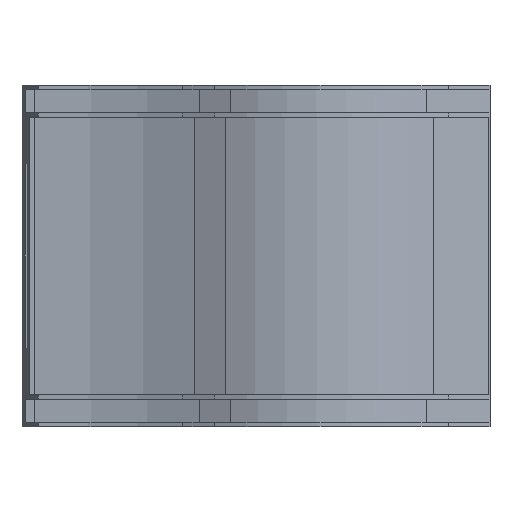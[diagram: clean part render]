
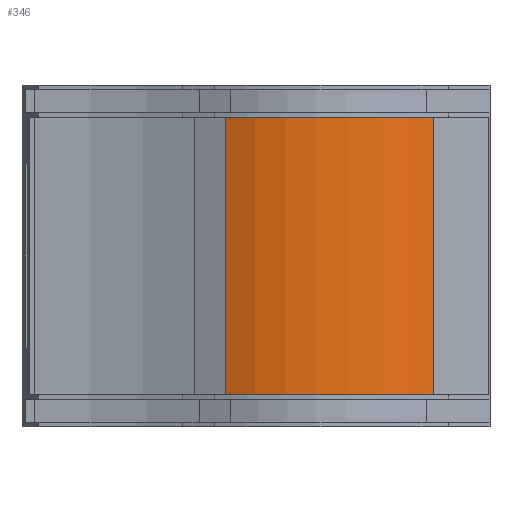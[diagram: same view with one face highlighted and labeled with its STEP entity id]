
A CAD part, front view. The second image highlights one B-rep face of the part: STEP entity #346.
In plain terms, the highlighted cylindrical face has radius 42.5 mm (diameter 85 mm), a partial arc.
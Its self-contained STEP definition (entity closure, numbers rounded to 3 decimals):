
#346=ADVANCED_FACE('',(#844),#846,.T.);
#844=FACE_BOUND('',#845,.T.);
#845=EDGE_LOOP('',(#1290,#1291,#1292,#1293));
#846=CYLINDRICAL_SURFACE('',#847,42.5);
#847=AXIS2_PLACEMENT_3D('',#848,#849,#850);
#848=CARTESIAN_POINT('',(-180.062,161.13,7.));
#849=DIRECTION('',(0.,0.,1.));
#850=DIRECTION('',(-0.446,-0.895,0.));
#1290=ORIENTED_EDGE('',*,*,#1439,.F.);
#1291=ORIENTED_EDGE('',*,*,#1566,.F.);
#1292=ORIENTED_EDGE('',*,*,#1443,.T.);
#1293=ORIENTED_EDGE('',*,*,#1453,.T.);
#1439=EDGE_CURVE('',#1645,#1647,#1648,.T.);
#1443=EDGE_CURVE('',#1655,#1653,#1656,.T.);
#1453=EDGE_CURVE('',#1653,#1647,#1673,.T.);
#1566=EDGE_CURVE('',#1655,#1645,#1862,.T.);
#1645=VERTEX_POINT('',#2000);
#1647=VERTEX_POINT('',#2004);
#1648=CIRCLE('',#2005,42.5);
#1653=VERTEX_POINT('',#2017);
#1655=VERTEX_POINT('',#2021);
#1656=CIRCLE('',#2022,42.5);
#1673=LINE('',#2063,#2064);
#1862=LINE('',#2510,#2511);
#2000=CARTESIAN_POINT('',(-199.009,123.087,67.));
#2004=CARTESIAN_POINT('',(-154.079,127.498,67.));
#2005=AXIS2_PLACEMENT_3D('',#2006,#2007,#2008);
#2006=CARTESIAN_POINT('',(-180.062,161.13,67.));
#2007=DIRECTION('',(-0.,0.,1.));
#2008=DIRECTION('',(-0.446,-0.895,0.));
#2017=CARTESIAN_POINT('',(-154.079,127.498,7.));
#2021=CARTESIAN_POINT('',(-199.009,123.087,7.));
#2022=AXIS2_PLACEMENT_3D('',#2023,#2024,#2025);
#2023=CARTESIAN_POINT('',(-180.062,161.13,7.));
#2024=DIRECTION('',(-0.,0.,1.));
#2025=DIRECTION('',(-0.446,-0.895,0.));
#2063=CARTESIAN_POINT('',(-154.079,127.498,7.));
#2064=VECTOR('',#2065,1.);
#2065=DIRECTION('',(0.,0.,1.));
#2510=CARTESIAN_POINT('',(-199.009,123.087,7.));
#2511=VECTOR('',#2512,1.);
#2512=DIRECTION('',(0.,0.,1.));
